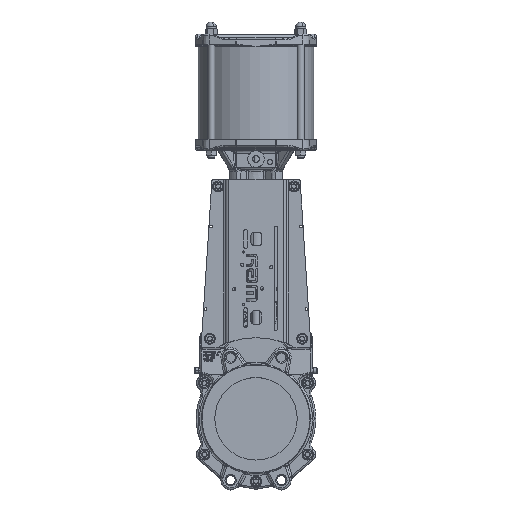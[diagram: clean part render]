
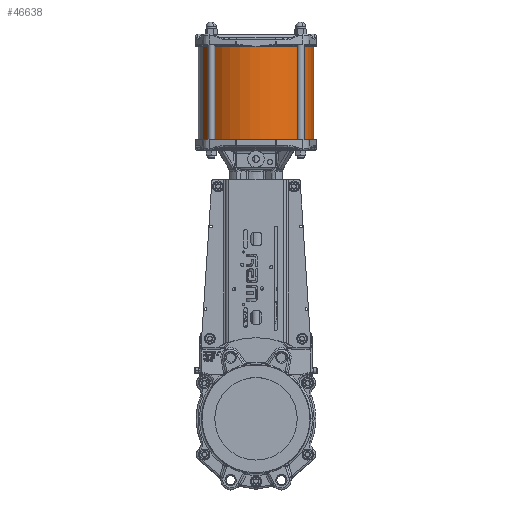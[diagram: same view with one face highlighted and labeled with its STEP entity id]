
A CAD part, top view. The second image highlights one B-rep face of the part: STEP entity #46638.
In plain terms, the highlighted cylindrical face has radius 105 mm (diameter 210 mm), a partial arc.
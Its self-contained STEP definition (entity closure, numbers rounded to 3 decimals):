
#532 = DIRECTION ( 'NONE',  ( 1., 0., 0. ) ) ;
#15711 = EDGE_CURVE ( 'NONE', #144622, #145680, #189500, .T. ) ;
#16103 = CARTESIAN_POINT ( 'NONE',  ( -96.163, 506., 41.912 ) ) ;
#18462 = DIRECTION ( 'NONE',  ( 0., 1., 0. ) ) ;
#19079 = DIRECTION ( 'NONE',  ( 0.916, 0., -0.402 ) ) ;
#26260 = AXIS2_PLACEMENT_3D ( 'NONE', #173254, #85503, #187965 ) ;
#36108 = LINE ( 'NONE', #143772, #187431 ) ;
#39284 = CARTESIAN_POINT ( 'NONE',  ( 96.163, 506., -42.412 ) ) ;
#40262 = FACE_OUTER_BOUND ( 'NONE', #78585, .T. ) ;
#46638 = ADVANCED_FACE ( 'NONE', ( #40262 ), #63565, .T. ) ;
#51213 = VERTEX_POINT ( 'NONE', #16103 ) ;
#63565 = CYLINDRICAL_SURFACE ( 'NONE', #70443, 105. ) ;
#63741 = CIRCLE ( 'NONE', #103251, 105. ) ;
#70443 = AXIS2_PLACEMENT_3D ( 'NONE', #163859, #18462, #19079 ) ;
#78585 = EDGE_LOOP ( 'NONE', ( #170190, #173066, #144862, #143760 ) ) ;
#85503 = DIRECTION ( 'NONE',  ( 0., 1., 0. ) ) ;
#88183 = CARTESIAN_POINT ( 'NONE',  ( 96.163, 680., -42.412 ) ) ;
#88257 = DIRECTION ( 'NONE',  ( 0., 1., 0. ) ) ;
#98214 = EDGE_CURVE ( 'NONE', #51213, #144622, #36108, .T. ) ;
#102744 = CARTESIAN_POINT ( 'NONE',  ( -96.163, 680., 41.912 ) ) ;
#102935 = EDGE_CURVE ( 'NONE', #51213, #185533, #63741, .T. ) ;
#102970 = DIRECTION ( 'NONE',  ( 0., 1., 0. ) ) ;
#103251 = AXIS2_PLACEMENT_3D ( 'NONE', #176036, #88257, #532 ) ;
#132348 = CARTESIAN_POINT ( 'NONE',  ( 96.163, 680., -42.412 ) ) ;
#132826 = EDGE_CURVE ( 'NONE', #185533, #145680, #174272, .T. ) ;
#135243 = VECTOR ( 'NONE', #102970, 1000. ) ;
#143760 = ORIENTED_EDGE ( 'NONE', *, *, #15711, .F. ) ;
#143772 = CARTESIAN_POINT ( 'NONE',  ( -96.163, 680., 41.912 ) ) ;
#144622 = VERTEX_POINT ( 'NONE', #102744 ) ;
#144862 = ORIENTED_EDGE ( 'NONE', *, *, #132826, .T. ) ;
#145680 = VERTEX_POINT ( 'NONE', #132348 ) ;
#163859 = CARTESIAN_POINT ( 'NONE',  ( 0., 680., -0.25 ) ) ;
#170190 = ORIENTED_EDGE ( 'NONE', *, *, #98214, .F. ) ;
#173066 = ORIENTED_EDGE ( 'NONE', *, *, #102935, .T. ) ;
#173254 = CARTESIAN_POINT ( 'NONE',  ( 0., 680., -0.25 ) ) ;
#174272 = LINE ( 'NONE', #88183, #135243 ) ;
#176036 = CARTESIAN_POINT ( 'NONE',  ( 0., 506., -0.25 ) ) ;
#185533 = VERTEX_POINT ( 'NONE', #39284 ) ;
#187431 = VECTOR ( 'NONE', #187977, 1000. ) ;
#187965 = DIRECTION ( 'NONE',  ( 0.916, 0., -0.402 ) ) ;
#187977 = DIRECTION ( 'NONE',  ( 0., 1., 0. ) ) ;
#189500 = CIRCLE ( 'NONE', #26260, 105. ) ;
